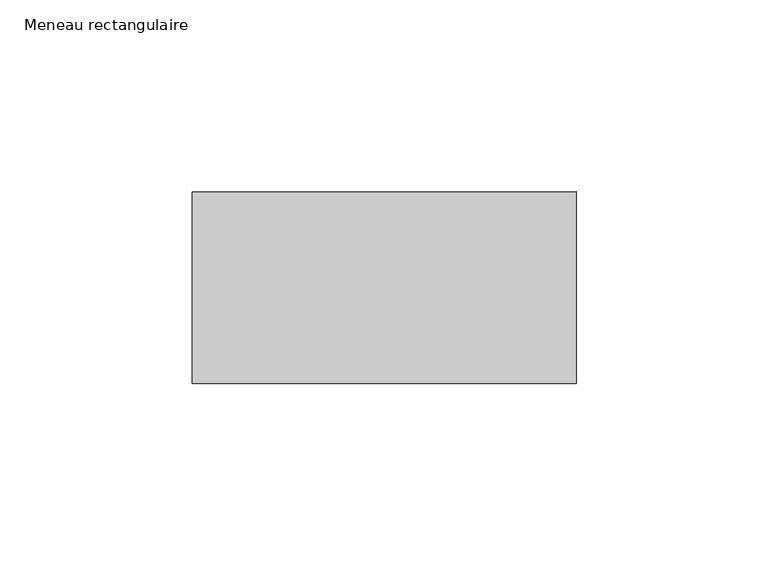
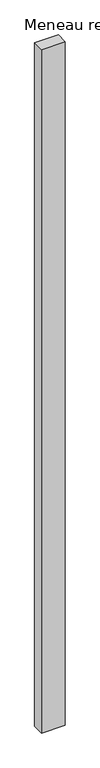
"""IFC4 building model written with IfcOpenShell, lengths in millimetres: member geometry, Meneau rectangulaire : 10x5cm aluminium laqué gris."""

from ifc_helpers import new_model, si_unit, frame, origin, place, context, project, spatial, polyline, outline, extrude, source, transform, mapped, element, save


def meneau_rectangulaire_8e3dbeaa(model_context):
    return source(origin(), model_context, "Body", "SweptSolid", [
        extrude(outline(polyline([(0.0, 25.0), (0.0, -25.0), (-100.0, -25.0), (-100.0, 25.0), (0.0, 25.0)])), frame((0.0, 0.0, -3055.2096551), z_axis=(0.0, 0.0, 1.0), x_axis=(1.0, 0.0, 0.0)), (0.0, 0.0, 1.0), 3055.2096551),
    ])


if __name__ == "__main__":
    model = new_model("IFC4")
    model_context = context("Model", 3, world=origin())
    ifc_project = project(units=[si_unit("LENGTHUNIT", "METRE", prefix="MILLI")], contexts=[model_context])
    site = spatial("IfcSite", under=ifc_project)
    building = spatial("IfcBuilding", under=site)
    placement = place(None, origin())
    meneau_rectangulaire_shape = meneau_rectangulaire_8e3dbeaa(model_context)
    element("IfcMember", 1, ObjectType="Meneau rectangulaire : 10x5cm aluminium laqué gris", at=placement, inside=building, context=model_context, shape_type="MappedRepresentation", body=[
        mapped(meneau_rectangulaire_shape, transform((0.0, 0.0, 0.0), x_axis=(1.0, 0.0, 0.0), y_axis=(0.0, 1.0, 0.0), z_axis=(0.0, 0.0, 1.0))),
    ])
    save(model, "model.ifc")
